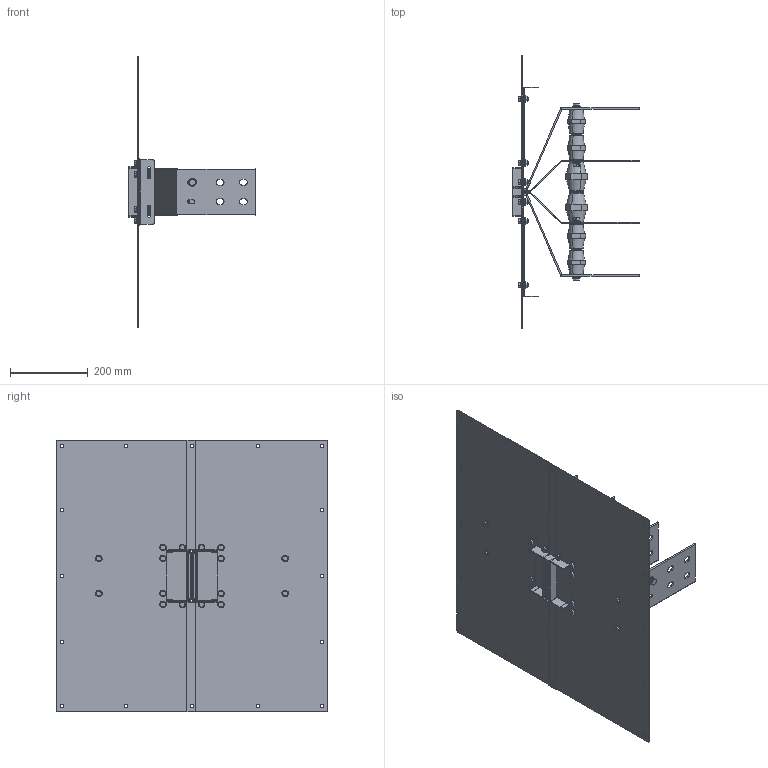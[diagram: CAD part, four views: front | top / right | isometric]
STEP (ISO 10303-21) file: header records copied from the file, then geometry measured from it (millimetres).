
FILE_DESCRIPTION(('CATIA V5 STEP','CAx-IF Rec.Pracs.--- Model Styling and Organization---1.5--- 2016-08-15','CAx-IF Rec.Pracs.---Supplemental Geometry---1.0---2011-11-01','CAx-IF Rec.Pracs.--- Composite Materials ---1.1---2010-07-15'),'2;1');
FILE_NAME('K:\COSCN 2011\32372311_RiduzioneSezioniBarre\03_Studio\__Modelli semplificati\XCP_UB semplificati per studi\XCP-HP_UB_4C_Pe_CRT_Assieme\Cu\XCP-HP_UB_4C_Pe_S_Assieme - 1250A Cu_CRT\XCP-HP_UB_4C_Pe_S_Assieme - 1250A Cu_CRT.stp','2025-05-12T11:43:57+00:00',('Utente Bticino'),('Bticino S.p.A.'),'CATIA Version 5-6 Release 2020 SP5','CATIA V5 STEP AP214 v2','none');
FILE_SCHEMA(('AUTOMOTIVE_DESIGN { 1 0 10303 214 1 1 1 1 }'));
Length unit declared in the file: millimetre
Products named in the file (20): XCP-HP_UB_4C_Pe_S_Assieme - 1250A Cu_CRT; XCP-HP_UB_4C_Pe_S_PaccoBarre_1250A Cu_CRT; XCP-HP_UB_4C_Pe_S_Lamiere_1250A Cu_CRT; Ass_M10x25.1; 00740025 M10x25 UNI5739; Rondella spac M10 UNI 1751; 00750005; 130006; 130184; 130006_1; 130184_1; 130006_2; 130006_3; 00750033 - RONDELLA PIANA 4.8 D.12 UNI 6592 ZB; 00750033 - RONDELLA PIANA 4.8 D.12 UNI 6592 ZB_1; 00750033 - RONDELLA PIANA 4.8 D.12 UNI 6592 ZB_2; Viteria UB H130; Ass Vite+dado M8; Steel hex flanged SCREW M12x16; Steel hex flanged NUT M8
Assembly tree (39 placements, depth 4):
  XCP-HP_UB_4C_Pe_S_Assieme - 1250A Cu_CRT
    XCP-HP_UB_4C_Pe_S_PaccoBarre_1250A Cu_CRT
    XCP-HP_UB_4C_Pe_S_Lamiere_1250A Cu_CRT
    Ass_M10x25.1  x6
      00740025 M10x25 UNI5739
      Rondella spac M10 UNI 1751
      00750005
    130006
    130184
    130006_1
    130184_1
    130006_2
    130006_3
    00750033 - RONDELLA PIANA 4.8 D.12 UNI 6592 ZB
    00750033 - RONDELLA PIANA 4.8 D.12 UNI 6592 ZB_1
    00750033 - RONDELLA PIANA 4.8 D.12 UNI 6592 ZB_2
    Viteria UB H130
      Ass Vite+dado M8  x16
        Steel hex flanged SCREW M12x16
        Steel hex flanged NUT M8
Bounding box: 325 x 700 x 700 mm (x, y, z)
Volume: 2561483.3 mm3; surface area: 1803106.7 mm2
Topology: 73 solids, 73 shells, 1660 faces, 3976 edges, 2500 vertices
Faces by surface type: plane 728, cylinder 492, cone 200, bspline 176, torus 64
Entity records: 23768 total; most frequent: CARTESIAN_POINT 5192, ORIENTED_EDGE 3944, DIRECTION 3114, EDGE_CURVE 1972, AXIS2_PLACEMENT_3D 1368, VERTEX_POINT 1260, VECTOR 1128, LINE 1128
